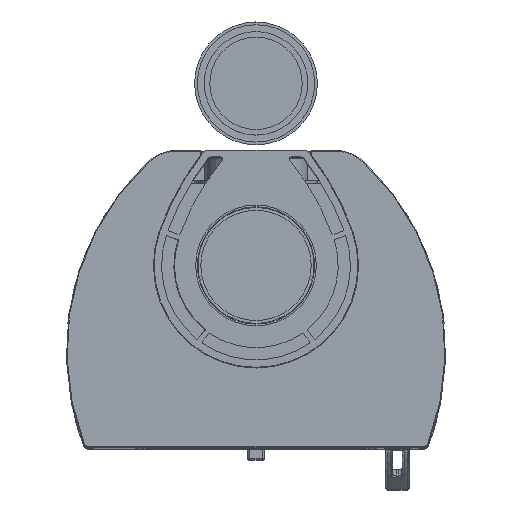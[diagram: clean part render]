
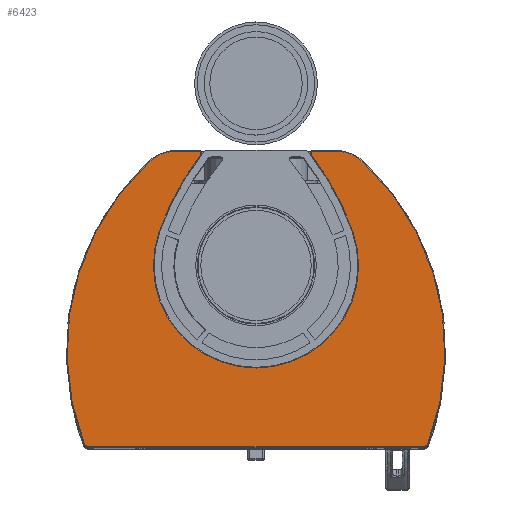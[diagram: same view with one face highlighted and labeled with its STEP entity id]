
A CAD part, top view. The second image highlights one B-rep face of the part: STEP entity #6423.
In plain terms, the highlighted planar face has unit normal (0, 0, 1).
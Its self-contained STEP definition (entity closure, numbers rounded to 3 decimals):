
#6423 = ADVANCED_FACE( '', ( #13004 ), #13005, .F. );
#13004 = FACE_OUTER_BOUND( '', #36185, .T. );
#13005 = PLANE( '', #36186 );
#36185 = EDGE_LOOP( '', ( #56323, #56324, #56325, #56326, #56327, #56328, #56329, #56330, #56331, #56332, #56333, #56334, #56335, #56336, #56337, #56338, #56339, #56340 ) );
#36186 = AXIS2_PLACEMENT_3D( '', #56341, #56342, #56343 );
#56323 = ORIENTED_EDGE( '', *, *, #60070, .T. );
#56324 = ORIENTED_EDGE( '', *, *, #61716, .T. );
#56325 = ORIENTED_EDGE( '', *, *, #63589, .T. );
#56326 = ORIENTED_EDGE( '', *, *, #61041, .T. );
#56327 = ORIENTED_EDGE( '', *, *, #63032, .T. );
#56328 = ORIENTED_EDGE( '', *, *, #62952, .T. );
#56329 = ORIENTED_EDGE( '', *, *, #63623, .T. );
#56330 = ORIENTED_EDGE( '', *, *, #58001, .T. );
#56331 = ORIENTED_EDGE( '', *, *, #62424, .T. );
#56332 = ORIENTED_EDGE( '', *, *, #56851, .T. );
#56333 = ORIENTED_EDGE( '', *, *, #63580, .T. );
#56334 = ORIENTED_EDGE( '', *, *, #63156, .T. );
#56335 = ORIENTED_EDGE( '', *, *, #57390, .T. );
#56336 = ORIENTED_EDGE( '', *, *, #62367, .T. );
#56337 = ORIENTED_EDGE( '', *, *, #58535, .T. );
#56338 = ORIENTED_EDGE( '', *, *, #62994, .T. );
#56339 = ORIENTED_EDGE( '', *, *, #61908, .T. );
#56340 = ORIENTED_EDGE( '', *, *, #57623, .T. );
#56341 = CARTESIAN_POINT( '', ( -243.81, -524., 1600. ) );
#56342 = DIRECTION( '', ( 0., 0., -1. ) );
#56343 = DIRECTION( '', ( -1., 0., 0. ) );
#56851 = EDGE_CURVE( '', #64381, #64379, #64382, .F. );
#57390 = EDGE_CURVE( '', #65315, #65320, #65322, .F. );
#57623 = EDGE_CURVE( '', #65712, #65717, #65719, .T. );
#58001 = EDGE_CURVE( '', #66362, #66360, #66363, .F. );
#58535 = EDGE_CURVE( '', #67262, #67264, #67266, .F. );
#60070 = EDGE_CURVE( '', #65717, #69692, #69694, .T. );
#61041 = EDGE_CURVE( '', #71032, #71030, #71033, .F. );
#61716 = EDGE_CURVE( '', #69692, #71888, #71890, .F. );
#61908 = EDGE_CURVE( '', #72111, #65712, #72113, .T. );
#62367 = EDGE_CURVE( '', #65320, #67262, #72654, .F. );
#62424 = EDGE_CURVE( '', #66360, #64381, #72722, .F. );
#62952 = EDGE_CURVE( '', #73326, #73324, #73327, .F. );
#62994 = EDGE_CURVE( '', #67264, #72111, #73373, .F. );
#63032 = EDGE_CURVE( '', #71030, #73326, #73416, .F. );
#63156 = EDGE_CURVE( '', #73546, #65315, #73548, .F. );
#63580 = EDGE_CURVE( '', #64379, #73546, #73988, .F. );
#63589 = EDGE_CURVE( '', #71888, #71032, #73997, .F. );
#63623 = EDGE_CURVE( '', #73324, #66362, #74031, .F. );
#64379 = VERTEX_POINT( '', #76396 );
#64381 = VERTEX_POINT( '', #76398 );
#64382 = CIRCLE( '', #76399, 5. );
#65315 = VERTEX_POINT( '', #79578 );
#65320 = VERTEX_POINT( '', #79584 );
#65322 = LINE( '', #79586, #79587 );
#65712 = VERTEX_POINT( '', #80830 );
#65717 = VERTEX_POINT( '', #80835 );
#65719 = CIRCLE( '', #80837, 148.719 );
#66360 = VERTEX_POINT( '', #83244 );
#66362 = VERTEX_POINT( '', #83246 );
#66363 = CIRCLE( '', #83247, 5. );
#67262 = VERTEX_POINT( '', #85845 );
#67264 = VERTEX_POINT( '', #85847 );
#67266 = LINE( '', #85849, #85850 );
#69692 = VERTEX_POINT( '', #94872 );
#69694 = CIRCLE( '', #94874, 402. );
#71030 = VERTEX_POINT( '', #100585 );
#71032 = VERTEX_POINT( '', #100587 );
#71033 = CIRCLE( '', #100588, 3. );
#71888 = VERTEX_POINT( '', #104291 );
#71890 = CIRCLE( '', #104293, 4. );
#72111 = VERTEX_POINT( '', #105998 );
#72113 = CIRCLE( '', #106000, 402. );
#72654 = CIRCLE( '', #109031, 3. );
#72722 = LINE( '', #109167, #109168 );
#73324 = VERTEX_POINT( '', #112028 );
#73326 = VERTEX_POINT( '', #112030 );
#73327 = CIRCLE( '', #112031, 59. );
#73373 = CIRCLE( '', #112099, 4. );
#73416 = LINE( '', #112415, #112416 );
#73546 = VERTEX_POINT( '', #112895 );
#73548 = CIRCLE( '', #112897, 59. );
#73988 = CIRCLE( '', #114476, 374. );
#73997 = LINE( '', #114486, #114487 );
#74031 = CIRCLE( '', #114524, 374. );
#76396 = CARTESIAN_POINT( '', ( 248.468, -525.816, 1600. ) );
#76398 = CARTESIAN_POINT( '', ( 243.81, -529., 1600. ) );
#76399 = AXIS2_PLACEMENT_3D( '', #115021, #115022, #115023 );
#79578 = CARTESIAN_POINT( '', ( 115.232, -101., 1600. ) );
#79584 = CARTESIAN_POINT( '', ( 83., -101., 1600. ) );
#79586 = CARTESIAN_POINT( '', ( 83., -101., 1600. ) );
#79587 = VECTOR( '', #115583, 1000. );
#80830 = CARTESIAN_POINT( '', ( 140.308, -217.361, 1600. ) );
#80835 = CARTESIAN_POINT( '', ( -140.308, -217.361, 1600. ) );
#80837 = AXIS2_PLACEMENT_3D( '', #115852, #115853, #115854 );
#83244 = CARTESIAN_POINT( '', ( -243.81, -529., 1600. ) );
#83246 = CARTESIAN_POINT( '', ( -248.468, -525.816, 1600. ) );
#83247 = AXIS2_PLACEMENT_3D( '', #116223, #116224, #116225 );
#85845 = CARTESIAN_POINT( '', ( 80., -104., 1600. ) );
#85847 = CARTESIAN_POINT( '', ( 80., -104.596, 1600. ) );
#85849 = CARTESIAN_POINT( '', ( 80., -104.596, 1600. ) );
#85850 = VECTOR( '', #116885, 1000. );
#94872 = CARTESIAN_POINT( '', ( -80.818, -107.02, 1600. ) );
#94874 = AXIS2_PLACEMENT_3D( '', #118371, #118372, #118373 );
#100585 = CARTESIAN_POINT( '', ( -83., -101., 1600. ) );
#100587 = CARTESIAN_POINT( '', ( -80., -104., 1600. ) );
#100588 = AXIS2_PLACEMENT_3D( '', #119408, #119409, #119410 );
#104291 = CARTESIAN_POINT( '', ( -80., -104.596, 1600. ) );
#104293 = AXIS2_PLACEMENT_3D( '', #120028, #120029, #120030 );
#105998 = CARTESIAN_POINT( '', ( 80.818, -107.02, 1600. ) );
#106000 = AXIS2_PLACEMENT_3D( '', #120216, #120217, #120218 );
#109031 = AXIS2_PLACEMENT_3D( '', #120592, #120593, #120594 );
#109167 = CARTESIAN_POINT( '', ( 243.81, -529., 1600. ) );
#109168 = VECTOR( '', #120642, 1000. );
#112028 = CARTESIAN_POINT( '', ( -155.546, -116.921, 1600. ) );
#112030 = CARTESIAN_POINT( '', ( -115.232, -101., 1600. ) );
#112031 = AXIS2_PLACEMENT_3D( '', #121064, #121065, #121066 );
#112099 = AXIS2_PLACEMENT_3D( '', #121102, #121103, #121104 );
#112415 = CARTESIAN_POINT( '', ( -115.232, -101., 1600. ) );
#112416 = VECTOR( '', #121132, 1000. );
#112895 = CARTESIAN_POINT( '', ( 155.546, -116.921, 1600. ) );
#112897 = AXIS2_PLACEMENT_3D( '', #121211, #121212, #121213 );
#114476 = AXIS2_PLACEMENT_3D( '', #121465, #121466, #121467 );
#114486 = CARTESIAN_POINT( '', ( -80., -104., 1600. ) );
#114487 = VECTOR( '', #121469, 1000. );
#114524 = AXIS2_PLACEMENT_3D( '', #121472, #121473, #121474 );
#115021 = CARTESIAN_POINT( '', ( 243.81, -524., 1600. ) );
#115022 = DIRECTION( '', ( 0., 0., -1. ) );
#115023 = DIRECTION( '', ( -1., 0., 0. ) );
#115583 = DIRECTION( '', ( 1., 0., 0. ) );
#115852 = CARTESIAN_POINT( '', ( 0., -266.665, 1600. ) );
#115853 = DIRECTION( '', ( 0., 0., -1. ) );
#115854 = DIRECTION( '', ( -1., 0., 0. ) );
#116223 = CARTESIAN_POINT( '', ( -243.81, -524., 1600. ) );
#116224 = DIRECTION( '', ( 0., 0., -1. ) );
#116225 = DIRECTION( '', ( -1., 0., 0. ) );
#116885 = DIRECTION( '', ( 0., 1., 0. ) );
#118371 = CARTESIAN_POINT( '', ( 238.957, -350.634, 1600. ) );
#118372 = DIRECTION( '', ( 0., 0., -1. ) );
#118373 = DIRECTION( '', ( -1., 0., 0. ) );
#119408 = CARTESIAN_POINT( '', ( -83., -104., 1600. ) );
#119409 = DIRECTION( '', ( 0., 0., -1. ) );
#119410 = DIRECTION( '', ( -1., 0., 0. ) );
#120028 = CARTESIAN_POINT( '', ( -84., -104.596, 1600. ) );
#120029 = DIRECTION( '', ( 0., 0., -1. ) );
#120030 = DIRECTION( '', ( -1., 0., 0. ) );
#120216 = CARTESIAN_POINT( '', ( -238.957, -350.634, 1600. ) );
#120217 = DIRECTION( '', ( 0., 0., -1. ) );
#120218 = DIRECTION( '', ( -1., 0., 0. ) );
#120592 = CARTESIAN_POINT( '', ( 83., -104., 1600. ) );
#120593 = DIRECTION( '', ( 0., 0., -1. ) );
#120594 = DIRECTION( '', ( -1., 0., 0. ) );
#120642 = DIRECTION( '', ( -1., 0., 0. ) );
#121064 = CARTESIAN_POINT( '', ( -115.232, -160., 1600. ) );
#121065 = DIRECTION( '', ( 0., 0., -1. ) );
#121066 = DIRECTION( '', ( -1., 0., 0. ) );
#121102 = CARTESIAN_POINT( '', ( 84., -104.596, 1600. ) );
#121103 = DIRECTION( '', ( 0., 0., -1. ) );
#121104 = DIRECTION( '', ( -1., 0., 0. ) );
#121132 = DIRECTION( '', ( 1., 0., 0. ) );
#121211 = CARTESIAN_POINT( '', ( 115.232, -160., 1600. ) );
#121212 = DIRECTION( '', ( 0., 0., -1. ) );
#121213 = DIRECTION( '', ( -1., 0., 0. ) );
#121465 = CARTESIAN_POINT( '', ( -100., -390., 1600. ) );
#121466 = DIRECTION( '', ( 0., 0., -1. ) );
#121467 = DIRECTION( '', ( -1., 0., 0. ) );
#121469 = DIRECTION( '', ( 0., -1., 0. ) );
#121472 = CARTESIAN_POINT( '', ( 100., -390., 1600. ) );
#121473 = DIRECTION( '', ( 0., 0., -1. ) );
#121474 = DIRECTION( '', ( -1., 0., 0. ) );
